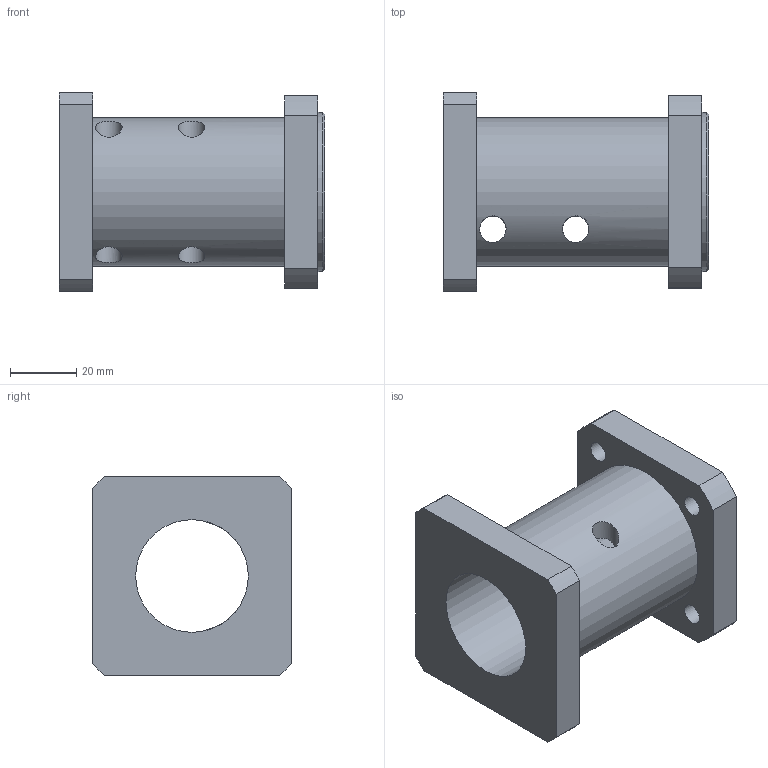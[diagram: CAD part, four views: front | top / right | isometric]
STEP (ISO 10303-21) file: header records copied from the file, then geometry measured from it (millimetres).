
FILE_DESCRIPTION(/* description */ (''),/* implementation_level */ '2;1');
FILE_NAME(/* name */ 'X:\VIRI ZA WEB\CAD DATOTEKE\LINEARNE ENOTE UNIMOTION\DODATNA OPREMA ZA LINEARNE ENOTE\MOTOR ADAPTERJI\CTJ\VK CTJ145\VK CTJ145 60 X 60 GESM14\izvoz\VK CTJ145 60 X 60 GESM14.stp',/* time_stamp */ '2015-08-31T09:49:00+01:00',/* author */ ('Hypex'),/* organization */ ('Hypex'),/* preprocessor_version */ 'ST-DEVELOPER v15.2',/* originating_system */ 'Autodesk Inventor 2014',/* authorisation */ '');
FILE_SCHEMA (('AUTOMOTIVE_DESIGN { 1 0 10303 214 3 1 1 }'));
Length unit declared in the file: millimetre
Products named in the file (1): VK CTJ145 60 X 60 GESM14
Bounding box: 80 x 60 x 60 mm (x, y, z)
Volume: 89327.6 mm3; surface area: 30950.1 mm2
Topology: 1 solids, 1 shells, 34 faces, 90 edges, 61 vertices
Faces by surface type: cylinder 19, plane 13, cone 2
Full cylindrical faces by diameter (mm): 6.2 x4, 8 x4, 34 x1, 45 x1, 48 x1
Entity records: 1281 total; most frequent: CARTESIAN_POINT 443, DIRECTION 166, ORIENTED_EDGE 144, EDGE_CURVE 72, EDGE_LOOP 68, AXIS2_PLACEMENT_3D 67, VERTEX_POINT 56, FACE_BOUND 38
